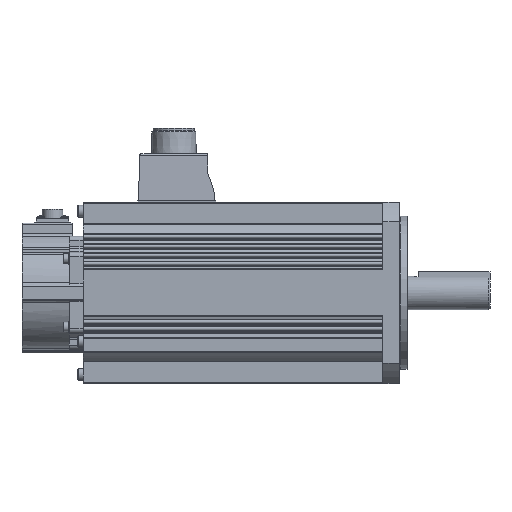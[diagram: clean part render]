
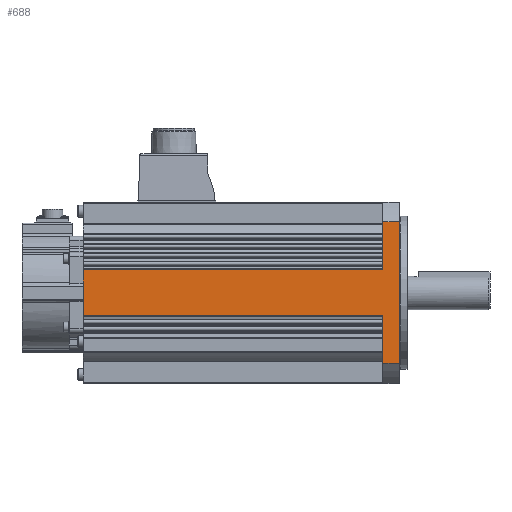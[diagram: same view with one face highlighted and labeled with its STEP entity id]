
A CAD part, top view. The second image highlights one B-rep face of the part: STEP entity #688.
In plain terms, the highlighted planar face has unit normal (0, 0, 1).
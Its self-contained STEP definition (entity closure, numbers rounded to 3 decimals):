
#688 = ADVANCED_FACE( '', ( #1980 ), #1981, .T. );
#1980 = FACE_OUTER_BOUND( '', #3286, .T. );
#1981 = PLANE( '', #3287 );
#3286 = EDGE_LOOP( '', ( #8211, #8212, #8213, #8214, #8215, #8216, #8217, #8218 ) );
#3287 = AXIS2_PLACEMENT_3D( '', #8219, #8220, #8221 );
#8211 = ORIENTED_EDGE( '', *, *, #9799, .T. );
#8212 = ORIENTED_EDGE( '', *, *, #10189, .T. );
#8213 = ORIENTED_EDGE( '', *, *, #10192, .T. );
#8214 = ORIENTED_EDGE( '', *, *, #9853, .F. );
#8215 = ORIENTED_EDGE( '', *, *, #9804, .T. );
#8216 = ORIENTED_EDGE( '', *, *, #10193, .F. );
#8217 = ORIENTED_EDGE( '', *, *, #9664, .F. );
#8218 = ORIENTED_EDGE( '', *, *, #10191, .T. );
#8219 = CARTESIAN_POINT( '', ( 0., 50.806, 65. ) );
#8220 = DIRECTION( '', ( 0., 0., 1. ) );
#8221 = DIRECTION( '', ( 0., 1., 0. ) );
#9664 = EDGE_CURVE( '', #12091, #12092, #12093, .T. );
#9799 = EDGE_CURVE( '', #12356, #12354, #12357, .T. );
#9804 = EDGE_CURVE( '', #12365, #12363, #12366, .T. );
#9853 = EDGE_CURVE( '', #12365, #12461, #12462, .T. );
#10189 = EDGE_CURVE( '', #12354, #12964, #12966, .T. );
#10191 = EDGE_CURVE( '', #12091, #12356, #12968, .T. );
#10192 = EDGE_CURVE( '', #12964, #12461, #12969, .T. );
#10193 = EDGE_CURVE( '', #12092, #12363, #12970, .T. );
#12091 = VERTEX_POINT( '', #15890 );
#12092 = VERTEX_POINT( '', #15891 );
#12093 = LINE( '', #15892, #15893 );
#12354 = VERTEX_POINT( '', #16201 );
#12356 = VERTEX_POINT( '', #16203 );
#12357 = LINE( '', #16204, #16205 );
#12363 = VERTEX_POINT( '', #16212 );
#12365 = VERTEX_POINT( '', #16214 );
#12366 = LINE( '', #16215, #16216 );
#12461 = VERTEX_POINT( '', #16327 );
#12462 = LINE( '', #16328, #16329 );
#12964 = VERTEX_POINT( '', #17056 );
#12966 = LINE( '', #17058, #17059 );
#12968 = LINE( '', #17062, #17063 );
#12969 = LINE( '', #17064, #17065 );
#12970 = LINE( '', #17066, #17067 );
#15890 = CARTESIAN_POINT( '', ( 0., 50.806, 65. ) );
#15891 = CARTESIAN_POINT( '', ( 0., -50.806, 65. ) );
#15892 = CARTESIAN_POINT( '', ( 0., 50.806, 65. ) );
#15893 = VECTOR( '', #19100, 1. );
#16201 = CARTESIAN_POINT( '', ( -12., 16.424, 65. ) );
#16203 = CARTESIAN_POINT( '', ( -12., 50.806, 65. ) );
#16204 = CARTESIAN_POINT( '', ( -12., 25.403, 65. ) );
#16205 = VECTOR( '', #19409, 1. );
#16212 = CARTESIAN_POINT( '', ( -12., -50.806, 65. ) );
#16214 = CARTESIAN_POINT( '', ( -12., -16.424, 65. ) );
#16215 = CARTESIAN_POINT( '', ( -12., 25.403, 65. ) );
#16216 = VECTOR( '', #19420, 1. );
#16327 = CARTESIAN_POINT( '', ( -227., -16.424, 65. ) );
#16328 = CARTESIAN_POINT( '', ( -119.5, -16.424, 65. ) );
#16329 = VECTOR( '', #19533, 1. );
#17056 = CARTESIAN_POINT( '', ( -227., 16.424, 65. ) );
#17058 = CARTESIAN_POINT( '', ( -119.5, 16.424, 65. ) );
#17059 = VECTOR( '', #20089, 1. );
#17062 = CARTESIAN_POINT( '', ( 0., 50.806, 65. ) );
#17063 = VECTOR( '', #20091, 1. );
#17064 = CARTESIAN_POINT( '', ( -227., 50.806, 65. ) );
#17065 = VECTOR( '', #20092, 1. );
#17066 = CARTESIAN_POINT( '', ( 0., -50.806, 65. ) );
#17067 = VECTOR( '', #20093, 1. );
#19100 = DIRECTION( '', ( 0., -1., 0. ) );
#19409 = DIRECTION( '', ( 0., -1., 0. ) );
#19420 = DIRECTION( '', ( 0., -1., 0. ) );
#19533 = DIRECTION( '', ( -1., 0., 0. ) );
#20089 = DIRECTION( '', ( -1., 0., 0. ) );
#20091 = DIRECTION( '', ( -1., 0., 0. ) );
#20092 = DIRECTION( '', ( 0., -1., 0. ) );
#20093 = DIRECTION( '', ( -1., 0., 0. ) );
